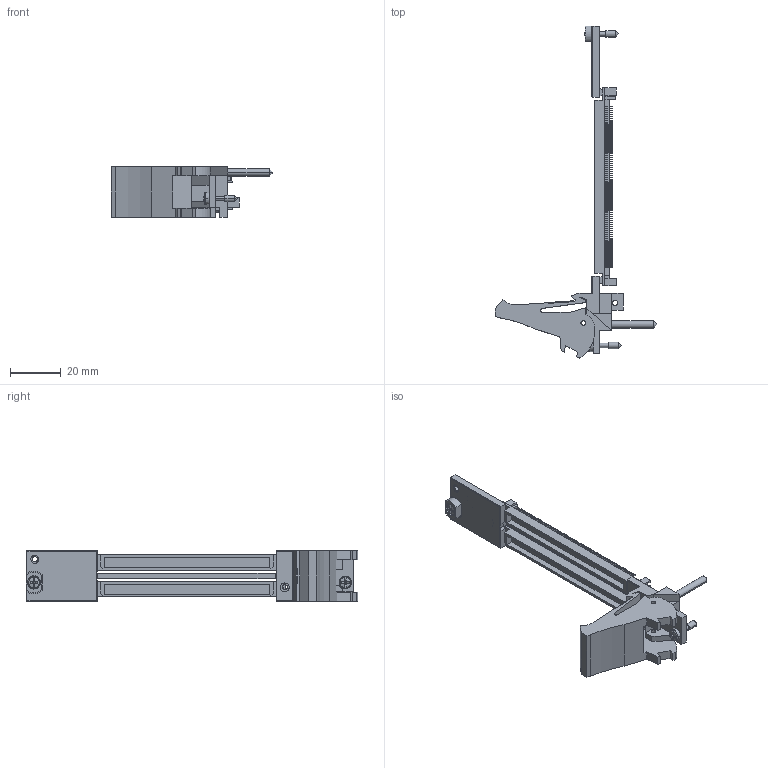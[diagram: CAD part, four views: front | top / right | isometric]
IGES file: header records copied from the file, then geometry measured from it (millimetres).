
Start section:  PTC IGES file: cu_pxie-2532.igs
Global section: file name: cu_pxie-2532.igs; native system: Pro/ENGINEER by Parametric Technology Corporation; preprocessor: 2006080; author: jjorden; organization: Unknown; date: 091106.085232; units: inch
Bounding box: 63.53 x 130.51 x 20.02 mm (x, y, z)
Surface area: 16047 mm2 (no closed solid volume)
Topology: 0 solids, 0 shells, 2656 faces, 13742 edges, 13738 vertices
Faces by surface type: bspline 2557, revolution 99
